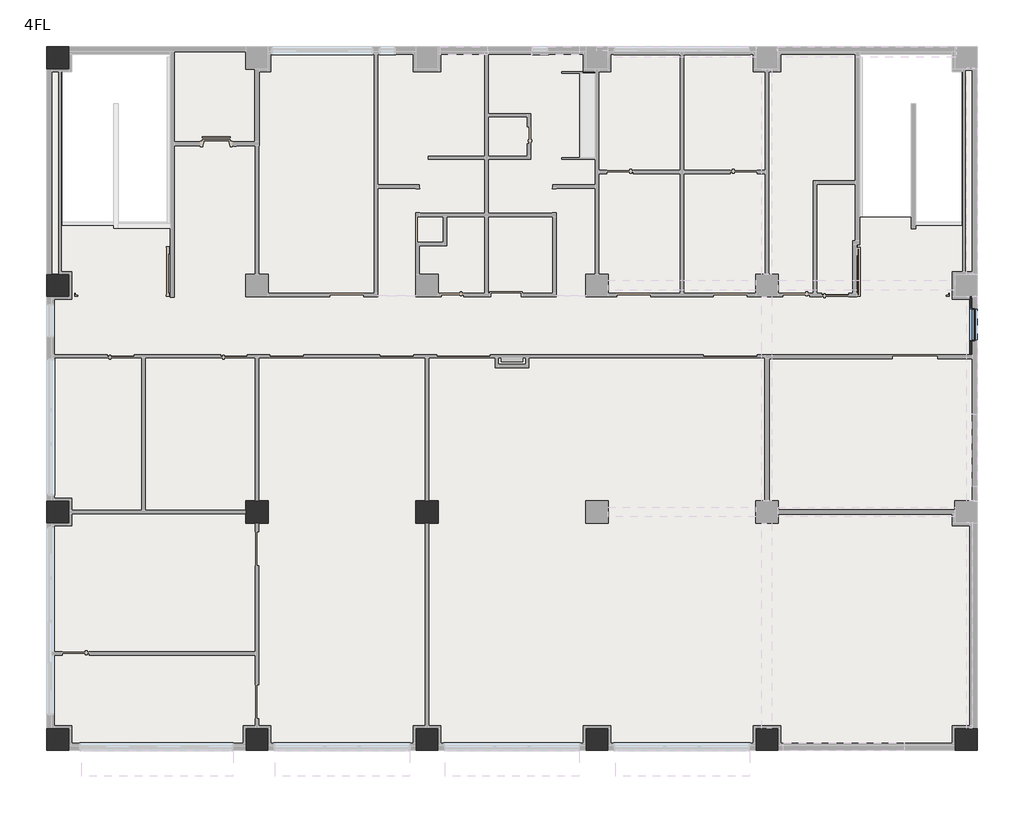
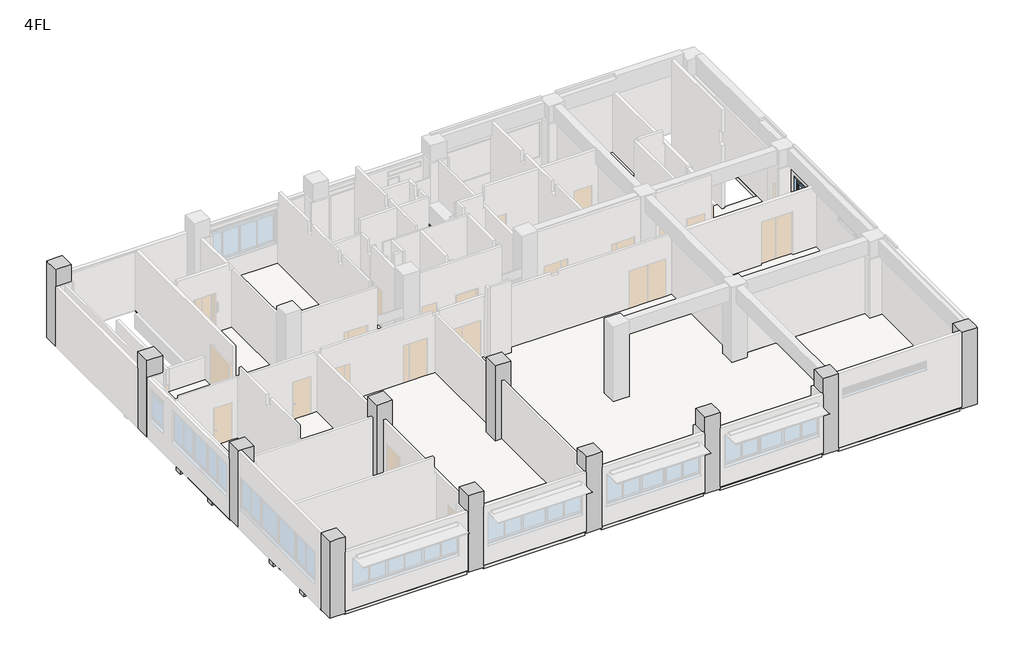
# One storey, part 4 of 5: 11 beams, 11 columns, 3 slabs, 1 wall, 1 window.
"""IFC4 building model written with IfcOpenShell, lengths in millimetres."""

from ifc_helpers import new_model, si_unit, frame, origin, place, context, project, spatial, polyline, outline, extrude, faceted_brep, transform, mapped, element, save
from components import aw6a_3e550bbd

model = new_model("IFC4")

# Units and contexts
model_context = context("Model", 3, world=origin())
ifc_project = project(units=[si_unit("LENGTHUNIT", "METRE", prefix="MILLI")], contexts=[model_context])

# Site, building, storey
site = spatial("IfcSite", under=ifc_project)
building = spatial("IfcBuilding", under=site)
storey = spatial("IfcBuildingStorey", under=building, Name="4FL", Elevation=12300.0)

# Beams
placement = place(None, origin())
element("IfcBeam", 1, ObjectType="営_RC梁 : B2 350*750", at=placement, inside=storey, context=model_context, shape_type="SweptSolid", body=[
    extrude(outline(polyline([(19225.0, 2485.0), (19225.0, 2835.0), (24775.0, 2835.0), (24775.0, 2485.0), (19225.0, 2485.0)])), frame((0.0, 0.0, 11450.0), z_axis=(0.0, 0.0, 1.0), x_axis=(1.0, 0.0, 0.0)), (0.0, 0.0, 1.0), 600.0),
])
element("IfcBeam", 2, ObjectType="営_RC梁 : B2 350*750", at=placement, inside=storey, context=model_context, shape_type="SweptSolid", body=[
    extrude(outline(polyline([(13225.0, 5155.0), (13225.0, 5505.0), (18775.0, 5505.0), (18775.0, 5155.0), (13225.0, 5155.0)])), frame((0.0, 0.0, 11450.0), z_axis=(0.0, 0.0, 1.0), x_axis=(1.0, 0.0, 0.0)), (0.0, 0.0, 1.0), 600.0),
])
element("IfcBeam", 3, ObjectType="営_RC梁 : B2 350*750", at=placement, inside=storey, context=model_context, shape_type="SweptSolid", body=[
    extrude(outline(polyline([(13225.0, 2485.0), (13225.0, 2835.0), (18775.0, 2835.0), (18775.0, 2485.0), (13225.0, 2485.0)])), frame((0.0, 0.0, 11450.0), z_axis=(0.0, 0.0, 1.0), x_axis=(1.0, 0.0, 0.0)), (0.0, 0.0, 1.0), 600.0),
])
element("IfcBeam", 4, ObjectType="営_RC梁 : B1 350*750", at=placement, inside=storey, context=model_context, shape_type="Brep", body=[
    faceted_brep([(7225.0, 5155.0, 11450.0), (9940.0, 5155.0, 11450.0), (10060.0, 5155.0, 11450.0), (12775.0, 5155.0, 11450.0), (12775.0, 5155.0, 12050.0), (10060.0, 5155.0, 12050.0), (9940.0, 5155.0, 12050.0), (7225.0, 5155.0, 12050.0), (7225.0, 5505.0, 11450.0), (9940.0, 5505.0, 11450.0), (10060.0, 5505.0, 11450.0), (12775.0, 5505.0, 11450.0), (7225.0, 5505.0, 12050.0), (9940.0, 5505.0, 12050.0), (10060.0, 5505.0, 12050.0), (12775.0, 5505.0, 12050.0)], [[[0, 1, 2, 3, 4, 5, 6, 7]], [[0, 8, 9, 10, 11, 3, 2, 1]], [[11, 10, 9, 8, 12, 13, 14, 15]], [[8, 0, 7, 12]], [[3, 11, 15, 4]], [[7, 6, 5, 4, 15, 14, 13, 12]]]),
])
element("IfcBeam", 5, ObjectType="営_RC梁 : B1 350*750", at=placement, inside=storey, context=model_context, shape_type="Brep", body=[
    faceted_brep([(7225.0, 2485.0, 11450.0), (9940.0, 2485.0, 11450.0), (10060.0, 2485.0, 11450.0), (12775.0, 2485.0, 11450.0), (12775.0, 2485.0, 12050.0), (10060.0, 2485.0, 12050.0), (9940.0, 2485.0, 12050.0), (7225.0, 2485.0, 12050.0), (7225.0, 2835.0, 11450.0), (9940.0, 2835.0, 11450.0), (10060.0, 2835.0, 11450.0), (12775.0, 2835.0, 11450.0), (7225.0, 2835.0, 12050.0), (9940.0, 2835.0, 12050.0), (10060.0, 2835.0, 12050.0), (12775.0, 2835.0, 12050.0)], [[[0, 1, 2, 3, 4, 5, 6, 7]], [[0, 8, 9, 10, 11, 3, 2, 1]], [[11, 10, 9, 8, 12, 13, 14, 15]], [[8, 0, 7, 12]], [[3, 11, 15, 4]], [[7, 6, 5, 4, 15, 14, 13, 12]]]),
])
element("IfcBeam", 6, ObjectType="営_RC梁 : B1 350*750", at=placement, inside=storey, context=model_context, shape_type="SweptSolid", body=[
    extrude(outline(polyline([(-50.0, 5155.0), (-50.0, 5505.0), (6775.0, 5505.0), (6775.0, 5155.0), (-50.0, 5155.0)])), frame((0.0, 0.0, 11450.0), z_axis=(0.0, 0.0, 1.0), x_axis=(1.0, 0.0, 0.0)), (0.0, 0.0, 1.0), 600.0),
])
element("IfcBeam", 7, ObjectType="営_RC梁 : B1 350*750", at=placement, inside=storey, context=model_context, shape_type="SweptSolid", body=[
    extrude(outline(polyline([(-50.0, 2485.0), (-50.0, 2835.0), (6775.0, 2835.0), (6775.0, 2485.0), (-50.0, 2485.0)])), frame((0.0, 0.0, 11450.0), z_axis=(0.0, 0.0, 1.0), x_axis=(1.0, 0.0, 0.0)), (0.0, 0.0, 1.0), 600.0),
])
element("IfcBeam", 8, ObjectType="営_RC梁 : B1 350*750", at=placement, inside=storey, context=model_context, shape_type="SweptSolid", body=[
    extrude(outline(polyline([(-50.0, 10575.0), (-50.0, 10925.0), (6775.0, 10925.0), (6775.0, 10575.0), (-50.0, 10575.0)])), frame((0.0, 0.0, 11450.0), z_axis=(0.0, 0.0, 1.0), x_axis=(1.0, 0.0, 0.0)), (0.0, 0.0, 1.0), 600.0),
])
element("IfcBeam", 9, ObjectType="営_RC梁 : B1 350*750", at=placement, inside=storey, context=model_context, shape_type="SweptSolid", body=[
    extrude(outline(polyline([(13675.0, 11450.0), (13325.0, 11450.0), (13325.0, 12050.0), (13500.0, 12050.0), (13500.0, 12140.0), (13675.0, 12140.0), (13675.0, 11450.0)])), frame((-50.0, 0.0, 0.0), z_axis=(1.0, 0.0, 0.0), x_axis=(0.0, 1.0, 0.0)), (0.0, 0.0, 1.0), 6825.0),
])
element("IfcBeam", 10, ObjectType="営_RC梁 : B1 350*750", at=placement, inside=storey, context=model_context, shape_type="Brep", body=[
    faceted_brep([(7225.0, 10575.0, 11450.0), (9940.0, 10575.0, 11450.0), (10060.0, 10575.0, 11450.0), (12775.0, 10575.0, 11450.0), (12775.0, 10575.0, 12050.0), (10060.0, 10575.0, 12050.0), (9940.0, 10575.0, 12050.0), (7225.0, 10575.0, 12050.0), (7225.0, 10925.0, 11450.0), (9940.0, 10925.0, 11450.0), (10060.0, 10925.0, 11450.0), (12775.0, 10925.0, 11450.0), (7225.0, 10925.0, 12050.0), (9940.0, 10925.0, 12050.0), (10060.0, 10925.0, 12050.0), (12775.0, 10925.0, 12050.0)], [[[0, 1, 2, 3, 4, 5, 6, 7]], [[0, 8, 9, 10, 11, 3, 2, 1]], [[11, 10, 9, 8, 12, 13, 14, 15]], [[8, 0, 7, 12]], [[3, 11, 15, 4]], [[7, 6, 5, 4, 15, 14, 13, 12]]]),
])
element("IfcBeam", 11, ObjectType="営_RC梁 : B1 350*750", at=placement, inside=storey, context=model_context, shape_type="Brep", body=[
    faceted_brep([(7225.0, 13325.0, 11450.0), (9940.0, 13325.0, 11450.0), (10060.0, 13325.0, 11450.0), (12775.0, 13325.0, 11450.0), (12775.0, 13325.0, 12050.0), (10060.0, 13325.0, 12050.0), (9940.0, 13325.0, 12050.0), (7225.0, 13325.0, 12050.0), (7225.0, 13675.0, 11450.0), (12775.0, 13675.0, 11450.0), (7225.0, 13675.0, 12140.0), (12775.0, 13675.0, 12140.0), (7225.0, 13500.0, 12050.0), (7225.0, 13500.0, 12140.0), (12775.0, 13500.0, 12140.0), (12775.0, 13500.0, 12050.0)], [[[0, 1, 2, 3, 4, 5, 6, 7]], [[0, 8, 9, 3, 2, 1]], [[9, 8, 10, 11]], [[8, 0, 7, 12, 13, 10]], [[3, 9, 11, 14, 15, 4]], [[15, 12, 7, 6, 5, 4]], [[12, 15, 14, 13]], [[11, 10, 13, 14]]]),
])

# Columns
element("IfcColumn", 12, ObjectType="営_RC柱_角 : 750*750", at=placement, inside=storey, context=model_context, shape_type="Brep", body=[
    faceted_brep([(7395.0, 370.0, 12200.0), (7395.0, -250.0, 12200.0), (7395.0, -420.0, 12200.0), (6605.0, -420.0, 12200.0), (6605.0, -250.0, 12200.0), (6605.0, 370.0, 12200.0), (7395.0, 370.0, 16300.0), (7395.0, -250.0, 16300.0), (7395.0, -335.0, 16300.0), (7395.0, -420.0, 16300.0), (7395.0, -420.0, 15450.0), (7395.0, -420.0, 12300.0), (7395.0, 370.0, 12280.0), (7395.0, 370.0, 12290.0), (7395.0, 370.0, 16240.0), (7000.0, -420.0, 16300.0), (6605.0, -420.0, 16300.0), (6605.0, -420.0, 15450.0), (6605.0, -420.0, 12300.0), (6605.0, -335.0, 16300.0), (6605.0, -250.0, 16300.0), (6605.0, 370.0, 16300.0), (6605.0, 370.0, 16240.0), (6605.0, 370.0, 12290.0), (6605.0, 370.0, 12280.0)], [[[0, 1, 2, 3, 4, 5]], [[6, 7, 8, 9, 10, 11, 2, 1, 0, 12, 13, 14]], [[9, 15, 16, 17, 18, 3, 2, 11, 10]], [[16, 19, 20, 21, 22, 23, 24, 5, 4, 3, 18, 17]], [[21, 6, 14, 13, 12, 0, 5, 24, 23, 22]], [[6, 21, 20, 19, 16, 15, 9, 8, 7]]]),
])
element("IfcColumn", 13, ObjectType="営_RC柱_角 : 750*750", at=placement, inside=storey, context=model_context, shape_type="Brep", body=[
    faceted_brep([(13395.0, 370.0, 12200.0), (13395.0, -250.0, 12200.0), (13395.0, -420.0, 12200.0), (12605.0, -420.0, 12200.0), (12605.0, -250.0, 12200.0), (12605.0, 370.0, 12200.0), (13395.0, 370.0, 16300.0), (13395.0, -250.0, 16300.0), (13395.0, -335.0, 16300.0), (13395.0, -420.0, 16300.0), (13395.0, -420.0, 15450.0), (13395.0, -420.0, 12300.0), (13395.0, 370.0, 12280.0), (13395.0, 370.0, 12290.0), (13395.0, 370.0, 16240.0), (13000.0, -420.0, 16300.0), (12605.0, -420.0, 16300.0), (12605.0, -420.0, 15450.0), (12605.0, -420.0, 12300.0), (12605.0, -335.0, 16300.0), (12605.0, -250.0, 16300.0), (12605.0, 370.0, 16300.0), (12605.0, 370.0, 16240.0), (12605.0, 370.0, 12290.0), (12605.0, 370.0, 12280.0)], [[[0, 1, 2, 3, 4, 5]], [[6, 7, 8, 9, 10, 11, 2, 1, 0, 12, 13, 14]], [[9, 15, 16, 17, 18, 3, 2, 11, 10]], [[16, 19, 20, 21, 22, 23, 24, 5, 4, 3, 18, 17]], [[21, 6, 14, 13, 12, 0, 5, 24, 23, 22]], [[6, 21, 20, 19, 16, 15, 9, 8, 7]]]),
])
element("IfcColumn", 14, ObjectType="営_RC柱_角 : 750*750", at=placement, inside=storey, context=model_context, shape_type="Brep", body=[
    faceted_brep([(19395.0, 370.0, 12200.0), (19395.0, -250.0, 12200.0), (19395.0, -420.0, 12200.0), (18605.0, -420.0, 12200.0), (18605.0, -250.0, 12200.0), (18605.0, 370.0, 12200.0), (19395.0, 370.0, 16300.0), (19395.0, -250.0, 16300.0), (19395.0, -335.0, 16300.0), (19395.0, -420.0, 16300.0), (19395.0, -420.0, 15450.0), (19395.0, -420.0, 12300.0), (19395.0, 370.0, 12280.0), (19395.0, 370.0, 12290.0), (19395.0, 370.0, 16240.0), (19000.0, -420.0, 16300.0), (18605.0, -420.0, 16300.0), (18605.0, -420.0, 15450.0), (18605.0, -420.0, 12300.0), (18605.0, -335.0, 16300.0), (18605.0, -250.0, 16300.0), (18605.0, 370.0, 16300.0), (18605.0, 370.0, 16240.0), (18605.0, 370.0, 12290.0), (18605.0, 370.0, 12280.0)], [[[0, 1, 2, 3, 4, 5]], [[6, 7, 8, 9, 10, 11, 2, 1, 0, 12, 13, 14]], [[9, 15, 16, 17, 18, 3, 2, 11, 10]], [[16, 19, 20, 21, 22, 23, 24, 5, 4, 3, 18, 17]], [[21, 6, 14, 13, 12, 0, 5, 24, 23, 22]], [[6, 21, 20, 19, 16, 15, 9, 8, 7]]]),
])
element("IfcColumn", 15, ObjectType="営_RC柱_角 : 750*750", at=placement, inside=storey, context=model_context, shape_type="Brep", body=[
    faceted_brep([(25395.0, 370.0, 12200.0), (25395.0, -250.0, 12200.0), (25395.0, -420.0, 12200.0), (24605.0, -420.0, 12200.0), (24605.0, -250.0, 12200.0), (24605.0, 370.0, 12200.0), (25395.0, 370.0, 16300.0), (25395.0, -250.0, 16300.0), (25395.0, -420.0, 16300.0), (25395.0, -420.0, 12300.0), (25395.0, 370.0, 12280.0), (25395.0, 370.0, 12290.0), (25395.0, 370.0, 16240.0), (25000.0, -420.0, 16300.0), (24605.0, -420.0, 16300.0), (24605.0, -420.0, 15450.0), (24605.0, -420.0, 12300.0), (24605.0, -335.0, 16300.0), (24605.0, -250.0, 16300.0), (24605.0, 370.0, 16300.0), (24605.0, 370.0, 16240.0), (24605.0, 370.0, 12290.0), (24605.0, 370.0, 12280.0)], [[[0, 1, 2, 3, 4, 5]], [[6, 7, 8, 9, 2, 1, 0, 10, 11, 12]], [[8, 13, 14, 15, 16, 3, 2, 9]], [[14, 17, 18, 19, 20, 21, 22, 5, 4, 3, 16, 15]], [[19, 6, 12, 11, 10, 0, 5, 22, 21, 20]], [[6, 19, 18, 17, 14, 13, 8, 7]]]),
])
element("IfcColumn", 16, ObjectType="営_RC柱_角 : 750*750", at=placement, inside=storey, context=model_context, shape_type="Brep", body=[
    faceted_brep([(32420.0, 370.0, 12200.0), (32420.0, -420.0, 12200.0), (31630.0, -420.0, 12200.0), (31630.0, -250.0, 12200.0), (31630.0, 370.0, 12200.0), (32250.0, 370.0, 12200.0), (32420.0, 370.0, 16300.0), (32420.0, -250.0, 16300.0), (32420.0, -420.0, 16300.0), (31630.0, -420.0, 16300.0), (31630.0, -420.0, 12300.0), (31630.0, -250.0, 16300.0), (31630.0, 370.0, 16300.0), (31630.0, 370.0, 16240.0), (31630.0, 370.0, 12290.0), (31630.0, 370.0, 12280.0), (32250.0, 370.0, 16300.0)], [[[0, 1, 2, 3, 4, 5]], [[6, 7, 8, 1, 0]], [[8, 9, 10, 2, 1]], [[9, 11, 12, 13, 14, 15, 4, 3, 2, 10]], [[12, 16, 6, 0, 5, 4, 15, 14, 13]], [[6, 16, 12, 11, 9, 8, 7]]]),
])
element("IfcColumn", 17, ObjectType="営_RC柱_角 : 750*750", at=placement, inside=storey, context=model_context, shape_type="Brep", body=[
    faceted_brep([(370.0, 370.0, 12200.0), (370.0, -250.0, 12200.0), (370.0, -420.0, 12200.0), (-420.0, -420.0, 12200.0), (-420.0, 370.0, 12200.0), (-250.0, 370.0, 12200.0), (370.0, 370.0, 16300.0), (370.0, -250.0, 16300.0), (370.0, -335.0, 16300.0), (370.0, -420.0, 16300.0), (370.0, -420.0, 15450.0), (370.0, -420.0, 12300.0), (370.0, 370.0, 12280.0), (370.0, 370.0, 12290.0), (370.0, 370.0, 16240.0), (0.0, -420.0, 16300.0), (-250.0, -420.0, 16300.0), (-420.0, -420.0, 16300.0), (-420.0, 370.0, 16300.0), (-250.0, 370.0, 16300.0)], [[[0, 1, 2, 3, 4, 5]], [[6, 7, 8, 9, 10, 11, 2, 1, 0, 12, 13, 14]], [[9, 15, 16, 17, 3, 2, 11, 10]], [[17, 18, 4, 3]], [[18, 19, 6, 14, 13, 12, 0, 5, 4]], [[6, 19, 18, 17, 16, 15, 9, 8, 7]]]),
])
element("IfcColumn", 18, ObjectType="営_RC柱_角 : 750*750", at=placement, inside=storey, context=model_context, shape_type="Brep", body=[
    faceted_brep([(7395.0, 8395.0, 12200.0), (7395.0, 7605.0, 12200.0), (6605.0, 7605.0, 12200.0), (6605.0, 8395.0, 12200.0), (7395.0, 8395.0, 16300.0), (7395.0, 7605.0, 16300.0), (7395.0, 7605.0, 16240.0), (7395.0, 7605.0, 12290.0), (7395.0, 7605.0, 12280.0), (7395.0, 8395.0, 12280.0), (7395.0, 8395.0, 12290.0), (7395.0, 8395.0, 16240.0), (6605.0, 7605.0, 16300.0), (6605.0, 7605.0, 16240.0), (6605.0, 7605.0, 12290.0), (6605.0, 7605.0, 12280.0), (6605.0, 8395.0, 16300.0), (6605.0, 8395.0, 16240.0), (6605.0, 8395.0, 12290.0), (6605.0, 8395.0, 12280.0)], [[[0, 1, 2, 3]], [[4, 5, 6, 7, 8, 1, 0, 9, 10, 11]], [[5, 12, 13, 14, 15, 2, 1, 8, 7, 6]], [[12, 16, 17, 18, 19, 3, 2, 15, 14, 13]], [[16, 4, 11, 10, 9, 0, 3, 19, 18, 17]], [[4, 16, 12, 5]]]),
])
element("IfcColumn", 19, ObjectType="営_RC柱_角 : 750*750", at=placement, inside=storey, context=model_context, shape_type="Brep", body=[
    faceted_brep([(13395.0, 8395.0, 12200.0), (13395.0, 7605.0, 12200.0), (12605.0, 7605.0, 12200.0), (12605.0, 8395.0, 12200.0), (13395.0, 8395.0, 16300.0), (13395.0, 7605.0, 16300.0), (13395.0, 7605.0, 16240.0), (13395.0, 7605.0, 12290.0), (13395.0, 7605.0, 12280.0), (13395.0, 8395.0, 12280.0), (13395.0, 8395.0, 12290.0), (13395.0, 8395.0, 16240.0), (12605.0, 7605.0, 16300.0), (12605.0, 7605.0, 16240.0), (12605.0, 7605.0, 12290.0), (12605.0, 7605.0, 12280.0), (12605.0, 8395.0, 16300.0), (12605.0, 8395.0, 16240.0), (12605.0, 8395.0, 12290.0), (12605.0, 8395.0, 12280.0)], [[[0, 1, 2, 3]], [[4, 5, 6, 7, 8, 1, 0, 9, 10, 11]], [[5, 12, 13, 14, 15, 2, 1, 8, 7, 6]], [[12, 16, 17, 18, 19, 3, 2, 15, 14, 13]], [[16, 4, 11, 10, 9, 0, 3, 19, 18, 17]], [[4, 16, 12, 5]]]),
])
element("IfcColumn", 20, ObjectType="営_RC柱_角 : 750*750", at=placement, inside=storey, context=model_context, shape_type="Brep", body=[
    faceted_brep([(370.0, 8395.0, 12200.0), (370.0, 7605.0, 12200.0), (-250.0, 7605.0, 12200.0), (-420.0, 7605.0, 12200.0), (-420.0, 8395.0, 12200.0), (-250.0, 8395.0, 12200.0), (370.0, 8395.0, 16300.0), (370.0, 7605.0, 16300.0), (370.0, 7605.0, 16240.0), (370.0, 7605.0, 12290.0), (370.0, 7605.0, 12280.0), (370.0, 8395.0, 12280.0), (370.0, 8395.0, 12290.0), (370.0, 8395.0, 16240.0), (-250.0, 7605.0, 16300.0), (-420.0, 7605.0, 16300.0), (-420.0, 8000.0, 16300.0), (-420.0, 8395.0, 16300.0), (-420.0, 8395.0, 15400.0), (-325.0, 8395.0, 16300.0), (-250.0, 8395.0, 16300.0)], [[[0, 1, 2, 3, 4, 5]], [[6, 7, 8, 9, 10, 1, 0, 11, 12, 13]], [[7, 14, 15, 3, 2, 1, 10, 9, 8]], [[15, 16, 17, 18, 4, 3]], [[17, 19, 20, 6, 13, 12, 11, 0, 5, 4, 18]], [[6, 20, 19, 17, 16, 15, 14, 7]]]),
])
element("IfcColumn", 21, ObjectType="営_RC柱_角 : 750*750", at=placement, inside=storey, context=model_context, shape_type="Brep", body=[
    faceted_brep([(370.0, 16395.0, 12200.0), (370.0, 15605.0, 12200.0), (-250.0, 15605.0, 12200.0), (-325.0, 15605.0, 12200.0), (-420.0, 15605.0, 12200.0), (-420.0, 16395.0, 12200.0), (-325.0, 16395.0, 12200.0), (-250.0, 16395.0, 12200.0), (370.0, 16395.0, 16300.0), (370.0, 15605.0, 16300.0), (370.0, 15605.0, 16240.0), (370.0, 15605.0, 12290.0), (370.0, 16395.0, 12290.0), (370.0, 16395.0, 16240.0), (-250.0, 15605.0, 16300.0), (-325.0, 15605.0, 16300.0), (-420.0, 15605.0, 16300.0), (-420.0, 15605.0, 15400.0), (-420.0, 16000.0, 16300.0), (-420.0, 16395.0, 16300.0), (-420.0, 16395.0, 15400.0), (-325.0, 16395.0, 16300.0), (-250.0, 16395.0, 16300.0)], [[[0, 1, 2, 3, 4, 5, 6, 7]], [[8, 9, 10, 11, 1, 0, 12, 13]], [[9, 14, 15, 16, 17, 4, 3, 2, 1, 11, 10]], [[16, 18, 19, 20, 5, 4, 17]], [[19, 21, 22, 8, 13, 12, 0, 7, 6, 5, 20]], [[8, 22, 21, 19, 18, 16, 15, 14, 9]]]),
])
element("IfcColumn", 22, ObjectType="営_RC柱_角 : 750*750", at=placement, inside=storey, context=model_context, shape_type="Brep", body=[
    faceted_brep([(370.0, 24420.0, 12200.0), (370.0, 24250.0, 12200.0), (370.0, 23630.0, 12200.0), (-250.0, 23630.0, 12200.0), (-420.0, 23630.0, 12200.0), (-420.0, 24420.0, 12200.0), (370.0, 24420.0, 16300.0), (370.0, 24290.0, 16300.0), (370.0, 23630.0, 16300.0), (370.0, 23630.0, 16240.0), (370.0, 24420.0, 15450.0), (-250.0, 23630.0, 16300.0), (-325.0, 23630.0, 16300.0), (-420.0, 23630.0, 16300.0), (-420.0, 23630.0, 15400.0), (-420.0, 24000.0, 16300.0), (-420.0, 24250.0, 16300.0), (-420.0, 24420.0, 16300.0), (0.0, 24420.0, 16300.0)], [[[0, 1, 2, 3, 4, 5]], [[6, 7, 8, 9, 2, 1, 0, 10]], [[8, 11, 12, 13, 14, 4, 3, 2, 9]], [[13, 15, 16, 17, 5, 4, 14]], [[17, 18, 6, 10, 0, 5]], [[6, 18, 17, 16, 15, 13, 12, 11, 8, 7]]]),
])

# Slabs
element("IfcSlab", 23, ObjectType="(内床)仕上げ", at=placement, inside=storey, context=model_context, shape_type="SweptSolid", body=[
    extrude(outline(polyline([(-250.0, 13500.0), (25000.0, 13500.0), (25000.0, 8395.0), (24605.0, 8395.0), (24605.0, 7605.0), (25395.0, 7605.0), (25395.0, 8000.0), (31630.0, 8000.0), (31630.0, 7605.0), (32250.0, 7605.0), (32250.0, 370.0), (31630.0, 370.0), (31630.0, -250.0), (25395.0, -250.0), (25395.0, 370.0), (24605.0, 370.0), (24605.0, -250.0), (19395.0, -250.0), (19395.0, 370.0), (18605.0, 370.0), (18605.0, -250.0), (13395.0, -250.0), (13395.0, 370.0), (12605.0, 370.0), (12605.0, -250.0), (7395.0, -250.0), (7395.0, 370.0), (6605.0, 370.0), (6605.0, -250.0), (370.0, -250.0), (370.0, 370.0), (-250.0, 370.0), (-250.0, 7605.0), (370.0, 7605.0), (370.0, 8395.0), (-250.0, 8395.0), (-250.0, 13500.0)]), holes=[polyline([(7395.0, 7605.0), (7395.0, 8395.0), (6605.0, 8395.0), (6605.0, 7605.0), (7395.0, 7605.0)]), polyline([(13395.0, 7605.0), (13395.0, 8395.0), (12605.0, 8395.0), (12605.0, 7605.0), (13395.0, 7605.0)]), polyline([(19395.0, 7605.0), (19395.0, 8395.0), (18605.0, 8395.0), (18605.0, 7605.0), (19395.0, 7605.0)])]), frame((0.0, 0.0, 12280.0), z_axis=(0.0, 0.0, 1.0), x_axis=(1.0, 0.0, 0.0)), (0.0, 0.0, 1.0), 10.0),
    extrude(outline(polyline([(11200.0, 24250.0), (11200.0, 15665.0), (7395.0, 15665.0), (7395.0, 16395.0), (7000.0, 16395.0), (7000.0, 23630.0), (7395.0, 23630.0), (7395.0, 24250.0), (11200.0, 24250.0)])), frame((0.0, 0.0, 12280.0), z_axis=(0.0, 0.0, 1.0), x_axis=(1.0, 0.0, 0.0)), (0.0, 0.0, 1.0), 10.0),
    extrude(outline(polyline([(28200.0, 24250.0), (28200.0, 19635.0), (26700.0, 19635.0), (26700.0, 15665.0), (25395.0, 15665.0), (25395.0, 16395.0), (24605.0, 16395.0), (24605.0, 15665.0), (19395.0, 15665.0), (19395.0, 16395.0), (19000.0, 16395.0), (19000.0, 23630.0), (19395.0, 23630.0), (19395.0, 24250.0), (24605.0, 24250.0), (24605.0, 23630.0), (25395.0, 23630.0), (25395.0, 24250.0), (28200.0, 24250.0)])), frame((0.0, 0.0, 12280.0), z_axis=(0.0, 0.0, 1.0), x_axis=(1.0, 0.0, 0.0)), (0.0, 0.0, 1.0), 10.0),
])
element("IfcSlab", 24, ObjectType="(RC)150", at=placement, inside=storey, context=model_context, shape_type="Brep", body=[
    faceted_brep([(-335.0, 13500.0, 12050.0), (-50.0, 13500.0, 12050.0), (6775.0, 13500.0, 12050.0), (7225.0, 13500.0, 12050.0), (12775.0, 13500.0, 12050.0), (13225.0, 13500.0, 12050.0), (18775.0, 13500.0, 12050.0), (19225.0, 13500.0, 12050.0), (24775.0, 13500.0, 12050.0), (25000.0, 13500.0, 12050.0), (25000.0, 8420.0, 12050.0), (24775.0, 8420.0, 12050.0), (24580.0, 8420.0, 12050.0), (24580.0, 8175.0, 12050.0), (24580.0, 7825.0, 12050.0), (24580.0, 7580.0, 12050.0), (24775.0, 7580.0, 12050.0), (25225.0, 7580.0, 12050.0), (25420.0, 7580.0, 12050.0), (25420.0, 7825.0, 12050.0), (25420.0, 8000.0, 12050.0), (31580.0, 8000.0, 12050.0), (31580.0, 7825.0, 12050.0), (31580.0, 7580.0, 12050.0), (32050.0, 7580.0, 12050.0), (32325.0, 7580.0, 12050.0), (32325.0, 420.0, 12050.0), (32050.0, 420.0, 12050.0), (31580.0, 420.0, 12050.0), (31580.0, -50.0, 12050.0), (31580.0, -325.0, 12050.0), (25420.0, -325.0, 12050.0), (25420.0, -50.0, 12050.0), (25420.0, 420.0, 12050.0), (25225.0, 420.0, 12050.0), (24775.0, 420.0, 12050.0), (24580.0, 420.0, 12050.0), (24580.0, -50.0, 12050.0), (24580.0, -325.0, 12050.0), (19420.0, -325.0, 12050.0), (19420.0, -50.0, 12050.0), (19420.0, 420.0, 12050.0), (19225.0, 420.0, 12050.0), (18775.0, 420.0, 12050.0), (18580.0, 420.0, 12050.0), (18580.0, -50.0, 12050.0), (18580.0, -325.0, 12050.0), (13420.0, -325.0, 12050.0), (13420.0, -50.0, 12050.0), (13420.0, 420.0, 12050.0), (13225.0, 420.0, 12050.0), (12775.0, 420.0, 12050.0), (12580.0, 420.0, 12050.0), (12580.0, -50.0, 12050.0), (12580.0, -325.0, 12050.0), (7420.0, -325.0, 12050.0), (7420.0, -50.0, 12050.0), (7420.0, 420.0, 12050.0), (7225.0, 420.0, 12050.0), (6775.0, 420.0, 12050.0), (6580.0, 420.0, 12050.0), (6580.0, -50.0, 12050.0), (6580.0, -325.0, 12050.0), (420.0, -325.0, 12050.0), (420.0, -50.0, 12050.0), (420.0, 420.0, 12050.0), (-50.0, 420.0, 12050.0), (-335.0, 420.0, 12050.0), (-335.0, 7580.0, 12050.0), (-50.0, 7580.0, 12050.0), (420.0, 7580.0, 12050.0), (420.0, 7825.0, 12050.0), (420.0, 8175.0, 12050.0), (420.0, 8420.0, 12050.0), (-50.0, 8420.0, 12050.0), (-335.0, 8420.0, 12050.0), (7420.0, 7580.0, 12050.0), (7420.0, 7825.0, 12050.0), (7420.0, 8175.0, 12050.0), (7420.0, 8420.0, 12050.0), (7225.0, 8420.0, 12050.0), (6775.0, 8420.0, 12050.0), (6580.0, 8420.0, 12050.0), (6580.0, 8175.0, 12050.0), (6580.0, 7825.0, 12050.0), (6580.0, 7580.0, 12050.0), (6775.0, 7580.0, 12050.0), (7225.0, 7580.0, 12050.0), (13420.0, 7580.0, 12050.0), (13420.0, 7825.0, 12050.0), (13420.0, 8175.0, 12050.0), (13420.0, 8420.0, 12050.0), (13225.0, 8420.0, 12050.0), (12775.0, 8420.0, 12050.0), (12580.0, 8420.0, 12050.0), (12580.0, 8175.0, 12050.0), (12580.0, 7825.0, 12050.0), (12580.0, 7580.0, 12050.0), (12775.0, 7580.0, 12050.0), (13225.0, 7580.0, 12050.0), (19420.0, 7580.0, 12050.0), (19420.0, 7825.0, 12050.0), (19420.0, 8175.0, 12050.0), (19420.0, 8420.0, 12050.0), (19225.0, 8420.0, 12050.0), (18775.0, 8420.0, 12050.0), (18580.0, 8420.0, 12050.0), (18580.0, 8175.0, 12050.0), (18580.0, 7825.0, 12050.0), (18580.0, 7580.0, 12050.0), (18775.0, 7580.0, 12050.0), (19225.0, 7580.0, 12050.0), (25000.0, 13500.0, 12200.0), (-325.0, 13500.0, 12200.0), (-335.0, 13500.0, 12200.0), (-335.0, 8420.0, 12200.0), (420.0, 8420.0, 12200.0), (420.0, 7580.0, 12200.0), (-335.0, 7580.0, 12200.0), (-335.0, 420.0, 12200.0), (420.0, 420.0, 12200.0), (420.0, -325.0, 12200.0), (6580.0, -325.0, 12200.0), (6580.0, 420.0, 12200.0), (7420.0, 420.0, 12200.0), (7420.0, -325.0, 12200.0), (12580.0, -325.0, 12200.0), (12580.0, 420.0, 12200.0), (13420.0, 420.0, 12200.0), (13420.0, -325.0, 12200.0), (18580.0, -325.0, 12200.0), (18580.0, 420.0, 12200.0), (19420.0, 420.0, 12200.0), (19420.0, -325.0, 12200.0), (24580.0, -325.0, 12200.0), (24580.0, 420.0, 12200.0), (25420.0, 420.0, 12200.0), (25420.0, -325.0, 12200.0), (31580.0, -325.0, 12200.0), (31580.0, 420.0, 12200.0), (32325.0, 420.0, 12200.0), (32325.0, 7580.0, 12200.0), (31580.0, 7580.0, 12200.0), (31580.0, 8000.0, 12200.0), (25420.0, 8000.0, 12200.0), (25420.0, 7580.0, 12200.0), (24580.0, 7580.0, 12200.0), (24580.0, 8420.0, 12200.0), (25000.0, 8420.0, 12200.0), (7420.0, 8420.0, 12200.0), (7420.0, 7580.0, 12200.0), (6580.0, 7580.0, 12200.0), (6580.0, 8420.0, 12200.0), (13420.0, 8420.0, 12200.0), (13420.0, 7580.0, 12200.0), (12580.0, 7580.0, 12200.0), (12580.0, 8420.0, 12200.0), (19420.0, 8420.0, 12200.0), (19420.0, 7580.0, 12200.0), (18580.0, 7580.0, 12200.0), (18580.0, 8420.0, 12200.0), (25000.0, 13500.0, 12140.0), (25000.0, 8420.0, 12140.0), (25420.0, 8000.0, 12140.0), (31580.0, 8000.0, 12140.0)], [[[0, 1, 2, 3, 4, 5, 6, 7, 8, 9, 10, 11, 12, 13, 14, 15, 16, 17, 18, 19, 20, 21, 22, 23, 24, 25, 26, 27, 28, 29, 30, 31, 32, 33, 34, 35, 36, 37, 38, 39, 40, 41, 42, 43, 44, 45, 46, 47, 48, 49, 50, 51, 52, 53, 54, 55, 56, 57, 58, 59, 60, 61, 62, 63, 64, 65, 66, 67, 68, 69, 70, 71, 72, 73, 74, 75], [76, 77, 78, 79, 80, 81, 82, 83, 84, 85, 86, 87], [88, 89, 90, 91, 92, 93, 94, 95, 96, 97, 98, 99], [100, 101, 102, 103, 104, 105, 106, 107, 108, 109, 110, 111]], [[112, 113, 114, 115, 116, 117, 118, 119, 120, 121, 122, 123, 124, 125, 126, 127, 128, 129, 130, 131, 132, 133, 134, 135, 136, 137, 138, 139, 140, 141, 142, 143, 144, 145, 146, 147, 148], [149, 150, 151, 152], [153, 154, 155, 156], [157, 158, 159, 160]], [[62, 122, 121, 63]], [[125, 55, 54, 126]], [[129, 47, 46, 130]], [[133, 39, 38, 134]], [[137, 31, 30, 138]], [[67, 119, 118, 68]], [[114, 0, 75, 115]], [[9, 8, 7, 6, 5, 4, 3, 2, 1, 0, 114, 113, 112, 161]], [[140, 26, 25, 141]], [[9, 161, 112, 148, 162, 10]], [[20, 163, 144, 143, 164, 21]], [[124, 57, 56, 55, 125]], [[60, 123, 122, 62, 61]], [[123, 60, 59, 58, 57, 124]], [[128, 49, 48, 47, 129]], [[52, 127, 126, 54, 53]], [[127, 52, 51, 50, 49, 128]], [[132, 41, 40, 39, 133]], [[44, 131, 130, 46, 45]], [[131, 44, 43, 42, 41, 132]], [[136, 33, 32, 31, 137]], [[36, 135, 134, 38, 37]], [[135, 36, 35, 34, 33, 136]], [[28, 139, 138, 30, 29]], [[139, 28, 27, 26, 140]], [[120, 65, 64, 63, 121]], [[65, 120, 119, 67, 66]], [[76, 150, 149, 79, 78, 77]], [[150, 76, 87, 86, 85, 151]], [[151, 85, 84, 83, 82, 152]], [[152, 82, 81, 80, 79, 149]], [[88, 154, 153, 91, 90, 89]], [[154, 88, 99, 98, 97, 155]], [[155, 97, 96, 95, 94, 156]], [[156, 94, 93, 92, 91, 153]], [[100, 158, 157, 103, 102, 101]], [[158, 100, 111, 110, 109, 159]], [[159, 109, 108, 107, 106, 160]], [[160, 106, 105, 104, 103, 157]], [[18, 145, 144, 163, 20, 19]], [[145, 18, 17, 16, 15, 146]], [[146, 15, 14, 13, 12, 147]], [[147, 12, 11, 10, 162, 148]], [[23, 142, 141, 25, 24]], [[142, 23, 22, 21, 164, 143]], [[70, 117, 116, 73, 72, 71]], [[117, 70, 69, 68, 118]], [[73, 116, 115, 75, 74]]]),
    faceted_brep([(28200.0, 24335.0, 12050.0), (28200.0, 24050.0, 12050.0), (28200.0, 16175.0, 12050.0), (28200.0, 15825.0, 12050.0), (28200.0, 15665.0, 12050.0), (25420.0, 15665.0, 12050.0), (25420.0, 15825.0, 12050.0), (25420.0, 16175.0, 12050.0), (25420.0, 16420.0, 12050.0), (25225.0, 16420.0, 12050.0), (25000.0, 16420.0, 12050.0), (25000.0, 23580.0, 12050.0), (25225.0, 23580.0, 12050.0), (25420.0, 23580.0, 12050.0), (25420.0, 24050.0, 12050.0), (25420.0, 24335.0, 12050.0), (28200.0, 15665.0, 12200.0), (28200.0, 18400.0, 12200.0), (28200.0, 24050.0, 12200.0), (28200.0, 24335.0, 12200.0), (25420.0, 24335.0, 12200.0), (25420.0, 23580.0, 12200.0), (25000.0, 23580.0, 12200.0), (25000.0, 16420.0, 12200.0), (25420.0, 16420.0, 12200.0), (25420.0, 15665.0, 12200.0), (28200.0, 15665.0, 12140.0), (25420.0, 15665.0, 12140.0), (25000.0, 16420.0, 12140.0), (25000.0, 23580.0, 12140.0)], [[[0, 1, 2, 3, 4, 5, 6, 7, 8, 9, 10, 11, 12, 13, 14, 15]], [[16, 17, 18, 19, 20, 21, 22, 23, 24, 25]], [[19, 0, 15, 20]], [[4, 3, 2, 1, 0, 19, 18, 17, 16, 26]], [[4, 26, 16, 25, 27, 5]], [[10, 28, 23, 22, 29, 11]], [[24, 8, 7, 6, 5, 27, 25]], [[8, 24, 23, 28, 10, 9]], [[13, 21, 20, 15, 14]], [[21, 13, 12, 11, 29, 22]]]),
])
element("IfcSlab", 25, ObjectType="(RC)150", at=placement, inside=storey, context=model_context, shape_type="Brep", body=[
    faceted_brep([(25000.0, 13500.0, 12140.0), (24775.0, 13500.0, 12140.0), (19225.0, 13500.0, 12140.0), (18775.0, 13500.0, 12140.0), (13225.0, 13500.0, 12140.0), (12775.0, 13500.0, 12140.0), (7225.0, 13500.0, 12140.0), (6775.0, 13500.0, 12140.0), (-50.0, 13500.0, 12140.0), (-325.0, 13500.0, 12140.0), (-325.0, 15580.0, 12140.0), (-50.0, 15580.0, 12140.0), (420.0, 15580.0, 12140.0), (420.0, 15825.0, 12140.0), (420.0, 16175.0, 12140.0), (420.0, 16420.0, 12140.0), (-50.0, 16420.0, 12140.0), (-325.0, 16420.0, 12140.0), (-325.0, 23580.0, 12140.0), (-50.0, 23580.0, 12140.0), (100.0, 23580.0, 12140.0), (100.0, 18225.0, 12140.0), (100.0, 18100.0, 12140.0), (3825.0, 18100.0, 12140.0), (4000.0, 18100.0, 12140.0), (4000.0, 24050.0, 12140.0), (4000.0, 24335.0, 12140.0), (6580.0, 24335.0, 12140.0), (6580.0, 24050.0, 12140.0), (6580.0, 23580.0, 12140.0), (6775.0, 23580.0, 12140.0), (7225.0, 23580.0, 12140.0), (7420.0, 23580.0, 12140.0), (7420.0, 24050.0, 12140.0), (7420.0, 24335.0, 12140.0), (12580.0, 24335.0, 12140.0), (12580.0, 24050.0, 12140.0), (12580.0, 23580.0, 12140.0), (12775.0, 23580.0, 12140.0), (13225.0, 23580.0, 12140.0), (13420.0, 23580.0, 12140.0), (13420.0, 24050.0, 12140.0), (13420.0, 24335.0, 12140.0), (18580.0, 24335.0, 12140.0), (18580.0, 24050.0, 12140.0), (18580.0, 23580.0, 12140.0), (18775.0, 23580.0, 12140.0), (19225.0, 23580.0, 12140.0), (19420.0, 23580.0, 12140.0), (19420.0, 24050.0, 12140.0), (19420.0, 24335.0, 12140.0), (24580.0, 24335.0, 12140.0), (24580.0, 24050.0, 12140.0), (24580.0, 23580.0, 12140.0), (24775.0, 23580.0, 12140.0), (25000.0, 23580.0, 12140.0), (25000.0, 16420.0, 12140.0), (24775.0, 16420.0, 12140.0), (24580.0, 16420.0, 12140.0), (24580.0, 16175.0, 12140.0), (24580.0, 15825.0, 12140.0), (24580.0, 15580.0, 12140.0), (24775.0, 15580.0, 12140.0), (25225.0, 15580.0, 12140.0), (25420.0, 15580.0, 12140.0), (25420.0, 15665.0, 12140.0), (28200.0, 15665.0, 12140.0), (28200.0, 15825.0, 12140.0), (28200.0, 16175.0, 12140.0), (28200.0, 18400.0, 12140.0), (28374.0, 18400.0, 12140.0), (30105.0, 18400.0, 12140.0), (30105.0, 18225.0, 12140.0), (30105.0, 18005.0, 12140.0), (30255.0, 18005.0, 12140.0), (30255.0, 18100.0, 12140.0), (31900.0, 18100.0, 12140.0), (31900.0, 18225.0, 12140.0), (31900.0, 23580.0, 12140.0), (32050.0, 23580.0, 12140.0), (32325.0, 23580.0, 12140.0), (32325.0, 16669.8819845, 12140.0), (32325.0, 16420.0, 12140.0), (32050.0, 16420.0, 12140.0), (31580.0, 16420.0, 12140.0), (31580.0, 16175.0, 12140.0), (31580.0, 15825.0, 12140.0), (31580.0, 15580.0, 12140.0), (32050.0, 15580.0, 12140.0), (32325.0, 15580.0, 12140.0), (32325.0, 8420.0, 12140.0), (32050.0, 8420.0, 12140.0), (31580.0, 8420.0, 12140.0), (31580.0, 8175.0, 12140.0), (31580.0, 8000.0, 12140.0), (25420.0, 8000.0, 12140.0), (25420.0, 8175.0, 12140.0), (25420.0, 8420.0, 12140.0), (25225.0, 8420.0, 12140.0), (25000.0, 8420.0, 12140.0), (7420.0, 15580.0, 12140.0), (7420.0, 15825.0, 12140.0), (7420.0, 16175.0, 12140.0), (7420.0, 16420.0, 12140.0), (7225.0, 16420.0, 12140.0), (6775.0, 16420.0, 12140.0), (6580.0, 16420.0, 12140.0), (6580.0, 16175.0, 12140.0), (6580.0, 15825.0, 12140.0), (6580.0, 15580.0, 12140.0), (6775.0, 15580.0, 12140.0), (7225.0, 15580.0, 12140.0), (13420.0, 15580.0, 12140.0), (13420.0, 15825.0, 12140.0), (13420.0, 16175.0, 12140.0), (13420.0, 16420.0, 12140.0), (13225.0, 16420.0, 12140.0), (12775.0, 16420.0, 12140.0), (12580.0, 16420.0, 12140.0), (12580.0, 16175.0, 12140.0), (12580.0, 15825.0, 12140.0), (12580.0, 15580.0, 12140.0), (12775.0, 15580.0, 12140.0), (13225.0, 15580.0, 12140.0), (19420.0, 15580.0, 12140.0), (19420.0, 15825.0, 12140.0), (19420.0, 16175.0, 12140.0), (19420.0, 16420.0, 12140.0), (19225.0, 16420.0, 12140.0), (18775.0, 16420.0, 12140.0), (18580.0, 16420.0, 12140.0), (18580.0, 16175.0, 12140.0), (18580.0, 15825.0, 12140.0), (18580.0, 15580.0, 12140.0), (18775.0, 15580.0, 12140.0), (19225.0, 15580.0, 12140.0), (-325.0, 13500.0, 12290.0), (25000.0, 13500.0, 12290.0), (25000.0, 8395.0, 12290.0), (25395.0, 8395.0, 12290.0), (25395.0, 7925.0, 12290.0), (31630.0, 7925.0, 12290.0), (31630.0, 8395.0, 12290.0), (32325.0, 8395.0, 12290.0), (32325.0, 15605.0, 12290.0), (31630.0, 15605.0, 12290.0), (31630.0, 16395.0, 12290.0), (32325.0, 16395.0, 12290.0), (32325.0, 16669.8819845, 12290.0), (32325.0, 23580.0, 12290.0), (31900.0, 23580.0, 12290.0), (31900.0, 18100.0, 12290.0), (30255.0, 18100.0, 12290.0), (30255.0, 18005.0, 12290.0), (30105.0, 18005.0, 12290.0), (30105.0, 18400.0, 12290.0), (28200.0, 18400.0, 12290.0), (28200.0, 15665.0, 12290.0), (25395.0, 15665.0, 12290.0), (25395.0, 15605.0, 12290.0), (24605.0, 15605.0, 12290.0), (24605.0, 16395.0, 12290.0), (25000.0, 16395.0, 12290.0), (25000.0, 23630.0, 12290.0), (24605.0, 23630.0, 12290.0), (24605.0, 24335.0, 12290.0), (19395.0, 24335.0, 12290.0), (19395.0, 23630.0, 12290.0), (18605.0, 23630.0, 12290.0), (18605.0, 24335.0, 12290.0), (13395.0, 24335.0, 12290.0), (13395.0, 23630.0, 12290.0), (12605.0, 23630.0, 12290.0), (12605.0, 24335.0, 12290.0), (7395.0, 24335.0, 12290.0), (7395.0, 23630.0, 12290.0), (6605.0, 23630.0, 12290.0), (6605.0, 24335.0, 12290.0), (4000.0, 24335.0, 12290.0), (4000.0, 18100.0, 12290.0), (100.0, 18100.0, 12290.0), (100.0, 23580.0, 12290.0), (-325.0, 23580.0, 12290.0), (-325.0, 16395.0, 12290.0), (370.0, 16395.0, 12290.0), (370.0, 15605.0, 12290.0), (-325.0, 15605.0, 12290.0), (7395.0, 16395.0, 12290.0), (7395.0, 15605.0, 12290.0), (6605.0, 15605.0, 12290.0), (6605.0, 16395.0, 12290.0), (13395.0, 16395.0, 12290.0), (13395.0, 15605.0, 12290.0), (12605.0, 15605.0, 12290.0), (12605.0, 16395.0, 12290.0), (19395.0, 16395.0, 12290.0), (19395.0, 15605.0, 12290.0), (18605.0, 15605.0, 12290.0), (18605.0, 16395.0, 12290.0), (32325.0, 16395.0, 12200.0), (32325.0, 16420.0, 12200.0), (32325.0, 8420.0, 12200.0), (32325.0, 15580.0, 12200.0), (32325.0, 15605.0, 12200.0), (32325.0, 8395.0, 12200.0), (25000.0, 13500.0, 12200.0), (-325.0, 13500.0, 12200.0), (32325.0, 23580.0, 12200.0), (4000.0, 24335.0, 12200.0), (6605.0, 24335.0, 12200.0), (6580.0, 24335.0, 12200.0), (7420.0, 24335.0, 12200.0), (7395.0, 24335.0, 12200.0), (12605.0, 24335.0, 12200.0), (12580.0, 24335.0, 12200.0), (13420.0, 24335.0, 12200.0), (13395.0, 24335.0, 12200.0), (18605.0, 24335.0, 12200.0), (18580.0, 24335.0, 12200.0), (19420.0, 24335.0, 12200.0), (19395.0, 24335.0, 12200.0), (24605.0, 24335.0, 12200.0), (24580.0, 24335.0, 12200.0), (-325.0, 15605.0, 12200.0), (-325.0, 15580.0, 12200.0), (-325.0, 23580.0, 12200.0), (-325.0, 16420.0, 12200.0), (-325.0, 16395.0, 12200.0), (25395.0, 7925.0, 12200.0), (31630.0, 7925.0, 12200.0), (25000.0, 8420.0, 12200.0), (25000.0, 8395.0, 12200.0), (100.0, 18100.0, 12200.0), (4000.0, 18100.0, 12200.0), (28200.0, 15665.0, 12200.0), (28200.0, 18400.0, 12200.0), (30105.0, 18005.0, 12200.0), (30255.0, 18005.0, 12200.0), (30255.0, 18100.0, 12200.0), (31900.0, 18100.0, 12200.0), (25420.0, 8420.0, 12200.0), (25420.0, 8000.0, 12200.0), (31580.0, 8000.0, 12200.0), (31580.0, 8420.0, 12200.0), (31630.0, 8395.0, 12200.0), (25395.0, 8395.0, 12200.0), (25000.0, 16420.0, 12200.0), (25000.0, 23580.0, 12200.0), (25000.0, 23630.0, 12200.0), (25000.0, 16395.0, 12200.0), (25420.0, 15665.0, 12200.0), (25395.0, 15665.0, 12200.0), (7420.0, 15580.0, 12200.0), (7420.0, 16420.0, 12200.0), (6580.0, 15580.0, 12200.0), (6580.0, 16420.0, 12200.0), (7395.0, 15605.0, 12200.0), (7395.0, 16395.0, 12200.0), (6605.0, 16395.0, 12200.0), (6605.0, 15605.0, 12200.0), (13420.0, 15580.0, 12200.0), (13420.0, 16420.0, 12200.0), (12580.0, 15580.0, 12200.0), (12580.0, 16420.0, 12200.0), (13395.0, 15605.0, 12200.0), (13395.0, 16395.0, 12200.0), (12605.0, 16395.0, 12200.0), (12605.0, 15605.0, 12200.0), (19420.0, 15580.0, 12200.0), (19420.0, 16420.0, 12200.0), (18580.0, 15580.0, 12200.0), (18580.0, 16420.0, 12200.0), (19395.0, 15605.0, 12200.0), (19395.0, 16395.0, 12200.0), (18605.0, 16395.0, 12200.0), (18605.0, 15605.0, 12200.0), (25420.0, 15580.0, 12200.0), (24580.0, 15580.0, 12200.0), (24580.0, 16420.0, 12200.0), (24605.0, 16395.0, 12200.0), (24605.0, 15605.0, 12200.0), (25395.0, 15605.0, 12200.0), (31580.0, 15580.0, 12200.0), (31580.0, 16420.0, 12200.0), (31630.0, 16395.0, 12200.0), (31630.0, 15605.0, 12200.0), (420.0, 15580.0, 12200.0), (420.0, 16420.0, 12200.0), (370.0, 15605.0, 12200.0), (370.0, 16395.0, 12200.0), (7420.0, 23580.0, 12200.0), (6580.0, 23580.0, 12200.0), (6605.0, 23630.0, 12200.0), (7395.0, 23630.0, 12200.0), (13420.0, 23580.0, 12200.0), (12580.0, 23580.0, 12200.0), (12605.0, 23630.0, 12200.0), (13395.0, 23630.0, 12200.0), (19420.0, 23580.0, 12200.0), (18580.0, 23580.0, 12200.0), (18605.0, 23630.0, 12200.0), (19395.0, 23630.0, 12200.0), (24580.0, 23580.0, 12200.0), (24605.0, 23630.0, 12200.0)], [[[0, 1, 2, 3, 4, 5, 6, 7, 8, 9, 10, 11, 12, 13, 14, 15, 16, 17, 18, 19, 20, 21, 22, 23, 24, 25, 26, 27, 28, 29, 30, 31, 32, 33, 34, 35, 36, 37, 38, 39, 40, 41, 42, 43, 44, 45, 46, 47, 48, 49, 50, 51, 52, 53, 54, 55, 56, 57, 58, 59, 60, 61, 62, 63, 64, 65, 66, 67, 68, 69, 70, 71, 72, 73, 74, 75, 76, 77, 78, 79, 80, 81, 82, 83, 84, 85, 86, 87, 88, 89, 90, 91, 92, 93, 94, 95, 96, 97, 98, 99], [100, 101, 102, 103, 104, 105, 106, 107, 108, 109, 110, 111], [112, 113, 114, 115, 116, 117, 118, 119, 120, 121, 122, 123], [124, 125, 126, 127, 128, 129, 130, 131, 132, 133, 134, 135]], [[136, 137, 138, 139, 140, 141, 142, 143, 144, 145, 146, 147, 148, 149, 150, 151, 152, 153, 154, 155, 156, 157, 158, 159, 160, 161, 162, 163, 164, 165, 166, 167, 168, 169, 170, 171, 172, 173, 174, 175, 176, 177, 178, 179, 180, 181, 182, 183, 184, 185, 186], [187, 188, 189, 190], [191, 192, 193, 194], [195, 196, 197, 198]], [[81, 148, 147, 199, 200, 82]], [[201, 90, 89, 202, 203, 144, 143, 204]], [[9, 8, 7, 6, 5, 4, 3, 2, 1, 0, 205, 137, 136, 206]], [[81, 80, 207, 149, 148]], [[26, 208, 178, 177, 209, 210, 27]], [[34, 211, 212, 174, 173, 213, 214, 35]], [[42, 215, 216, 170, 169, 217, 218, 43]], [[50, 219, 220, 166, 165, 221, 222, 51]], [[206, 136, 186, 223, 224, 10, 9]], [[182, 225, 18, 17, 226, 227, 183]], [[140, 228, 229, 141]], [[205, 0, 99, 230, 231, 138, 137]], [[20, 19, 18, 225, 182, 181]], [[22, 21, 20, 181, 180, 232]], [[24, 23, 22, 232, 180, 179, 233]], [[26, 25, 24, 233, 179, 178, 208]], [[69, 68, 67, 66, 234, 157, 156, 235]], [[71, 70, 69, 235, 156, 155]], [[73, 72, 71, 155, 154, 236]], [[74, 73, 236, 154, 153, 237]], [[75, 74, 237, 153, 152, 238]], [[76, 75, 238, 152, 151, 239]], [[78, 77, 76, 239, 151, 150]], [[80, 79, 78, 150, 149, 207]], [[240, 241, 242, 243, 201, 204, 244, 229, 228, 245, 231, 230]], [[241, 95, 94, 242]], [[246, 56, 55, 247, 248, 163, 162, 249]], [[234, 66, 65, 250, 251, 158, 157]], [[241, 240, 97, 96, 95]], [[97, 240, 230, 99, 98]], [[243, 242, 94, 93, 92]], [[243, 92, 91, 90, 201]], [[252, 253, 103, 102, 101, 100]], [[254, 252, 100, 111, 110, 109]], [[255, 254, 109, 108, 107, 106]], [[253, 255, 106, 105, 104, 103]], [[253, 252, 254, 255], [256, 257, 258, 259]], [[260, 261, 115, 114, 113, 112]], [[262, 260, 112, 123, 122, 121]], [[263, 262, 121, 120, 119, 118]], [[261, 263, 118, 117, 116, 115]], [[261, 260, 262, 263], [264, 265, 266, 267]], [[268, 269, 127, 126, 125, 124]], [[270, 268, 124, 135, 134, 133]], [[271, 270, 133, 132, 131, 130]], [[269, 271, 130, 129, 128, 127]], [[269, 268, 270, 271], [272, 273, 274, 275]], [[64, 276, 250, 65]], [[277, 276, 64, 63, 62, 61]], [[278, 277, 61, 60, 59, 58]], [[278, 58, 57, 56, 246]], [[276, 277, 278, 246, 249, 279, 280, 281, 251, 250]], [[87, 282, 202, 89, 88]], [[283, 282, 87, 86, 85, 84]], [[283, 84, 83, 82, 200]], [[282, 283, 200, 199, 284, 285, 203, 202]], [[286, 287, 15, 14, 13, 12]], [[286, 12, 11, 10, 224]], [[15, 287, 226, 17, 16]], [[287, 286, 224, 223, 288, 289, 227, 226]], [[32, 290, 211, 34, 33]], [[291, 290, 32, 31, 30, 29]], [[291, 29, 28, 27, 210]], [[290, 291, 210, 209, 292, 293, 212, 211]], [[40, 294, 215, 42, 41]], [[295, 294, 40, 39, 38, 37]], [[295, 37, 36, 35, 214]], [[294, 295, 214, 213, 296, 297, 216, 215]], [[48, 298, 219, 50, 49]], [[299, 298, 48, 47, 46, 45]], [[299, 45, 44, 43, 218]], [[298, 299, 218, 217, 300, 301, 220, 219]], [[53, 302, 247, 55, 54]], [[302, 53, 52, 51, 222]], [[247, 302, 222, 221, 303, 248]], [[139, 245, 228, 140]], [[245, 139, 138, 231]], [[244, 142, 141, 229]], [[142, 244, 204, 143]], [[256, 188, 187, 257]], [[188, 256, 259, 189]], [[189, 259, 258, 190]], [[190, 258, 257, 187]], [[264, 192, 191, 265]], [[192, 264, 267, 193]], [[193, 267, 266, 194]], [[194, 266, 265, 191]], [[272, 196, 195, 273]], [[196, 272, 275, 197]], [[197, 275, 274, 198]], [[198, 274, 273, 195]], [[281, 159, 158, 251]], [[159, 281, 280, 160]], [[160, 280, 279, 161]], [[161, 279, 249, 162]], [[285, 145, 144, 203]], [[145, 285, 284, 146]], [[146, 284, 199, 147]], [[288, 185, 184, 289]], [[185, 288, 223, 186]], [[289, 184, 183, 227]], [[293, 175, 174, 212]], [[175, 293, 292, 176]], [[176, 292, 209, 177]], [[297, 171, 170, 216]], [[171, 297, 296, 172]], [[172, 296, 213, 173]], [[301, 167, 166, 220]], [[167, 301, 300, 168]], [[168, 300, 217, 169]], [[303, 164, 163, 248]], [[164, 303, 221, 165]]]),
])

# Wall
element("IfcWall", 26, ObjectType="(内壁)W5", at=placement, inside=storey, context=model_context, shape_type="Brep", body=[
    faceted_brep([(32250.0, 13555.0, 12300.0), (32250.0, 15605.0, 12300.0), (32250.0, 15605.0, 15400.0), (32250.0, 13555.0, 15400.0), (32250.0, 14027.5, 13365.0), (32250.0, 14027.5, 15020.0), (32250.0, 15207.5, 15020.0), (32250.0, 15207.5, 13365.0), (32160.0, 15605.0, 12300.0), (32160.0, 15515.0, 12300.0), (32160.0, 13555.0, 12300.0), (32160.0, 13555.0, 15400.0), (32160.0, 15515.0, 15400.0), (32160.0, 15605.0, 15400.0), (32160.0, 14027.5, 15020.0), (32160.0, 14027.5, 13365.0), (32160.0, 15207.5, 13365.0), (32160.0, 15207.5, 15020.0)], [[[0, 1, 2, 3], [4, 5, 6, 7]], [[8, 9, 10, 11, 12, 13], [14, 15, 16, 17]], [[1, 0, 10, 9, 8]], [[3, 2, 13, 12, 11]], [[2, 1, 8, 13]], [[0, 3, 11, 10]], [[14, 5, 4, 15]], [[16, 7, 6, 17]], [[15, 4, 7, 16]], [[5, 14, 17, 6]]]),
])

# Window
aw6a_shape = aw6a_3e550bbd(model_context)
element("IfcWindow", 27, ObjectType="営_段窓_縦辷出し/ガラリ : AW6a", at=placement, inside=storey, context=model_context, shape_type="MappedRepresentation", body=[
    mapped(aw6a_shape, transform((32335.0, 14617.5, 12300.0), x_axis=(0.0, -1.0, 0.0), y_axis=(1.0, 0.0, 0.0), z_axis=(0.0, 0.0, 1.0))),
])

save(model, "model.ifc")
